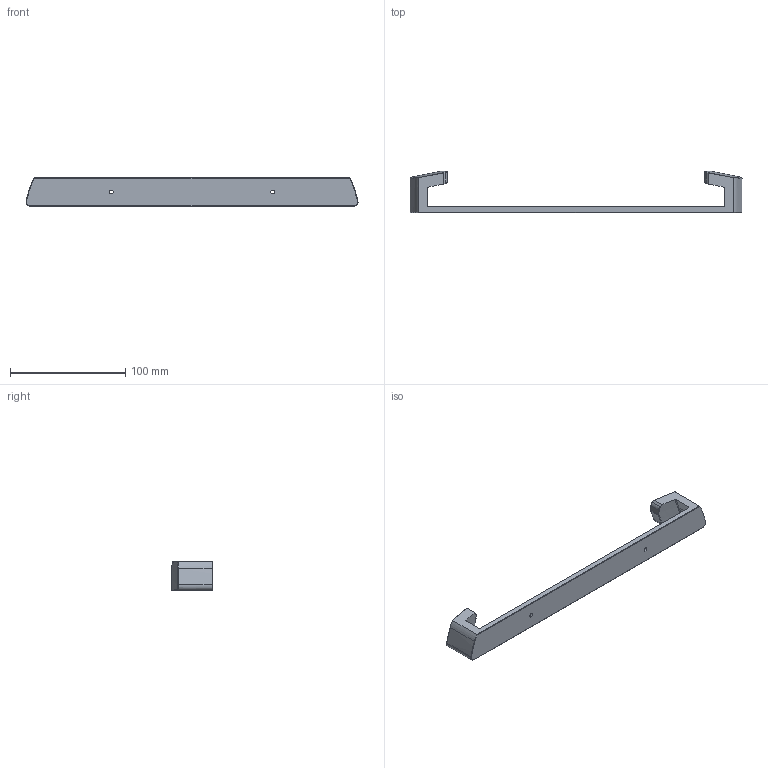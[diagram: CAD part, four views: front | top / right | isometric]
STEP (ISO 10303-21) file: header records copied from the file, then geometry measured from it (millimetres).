
FILE_DESCRIPTION (( 'STEP AP214' ), '1' );
FILE_NAME ('Topfdeckelhalterung 28cm.STEP', '2025-06-14T16:18:47', ( '' ), ( '' ), 'SwSTEP 2.0', 'SolidWorks 2012', '' );
FILE_SCHEMA (( 'AUTOMOTIVE_DESIGN' ));
Length unit declared in the file: millimetre
Products named in the file (1): Topfdeckelhalterung 28cm
Bounding box: 287.84 x 35.88 x 25 mm (x, y, z)
Volume: 52612.3 mm3; surface area: 22456.6 mm2
Topology: 1 solids, 1 shells, 113 faces, 281 edges, 168 vertices
Faces by surface type: bspline 50, cylinder 23, plane 20, cone 10, torus 10
Entity records: 5129 total; most frequent: CARTESIAN_POINT 2837, ORIENTED_EDGE 558, DIRECTION 349, EDGE_CURVE 279, VERTEX_POINT 168, AXIS2_PLACEMENT_3D 142, B_SPLINE_CURVE_WITH_KNOTS 130, EDGE_LOOP 117
